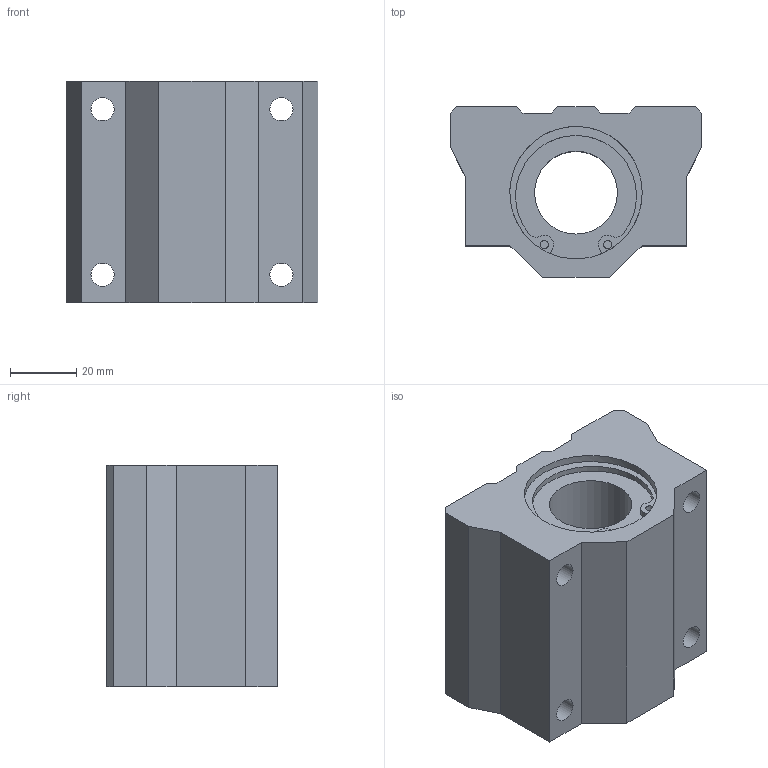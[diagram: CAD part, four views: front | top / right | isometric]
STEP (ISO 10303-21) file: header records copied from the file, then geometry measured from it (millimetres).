
FILE_DESCRIPTION(('STEP AP203'),'1');
FILE_NAME('//192.168.1.1/share/s-4 技術開発/s-4-4_CAD/s-4-4-3_見直し済み/008 修正済み/LC-A/LC-A_TOP/LC-25VAUU.step','2022-05-19T01:36:19',(' '),(' '),'Spatial InterOp 3D',' ',' ');
FILE_SCHEMA(('CONFIG_CONTROL_DESIGN'));
Length unit declared in the file: millimetre
Products named in the file (1): 1
Bounding box: 76 x 51.5 x 67 mm (x, y, z)
Volume: 169772.7 mm3; surface area: 30420.5 mm2
Topology: 1 solids, 1 shells, 65 faces, 171 edges, 114 vertices
Faces by surface type: plane 36, cylinder 29
Full cylindrical faces by diameter (mm): 2.5 x4, 7 x8, 25 x1, 40 x2
Entity records: 1956 total; most frequent: DIRECTION 338, CARTESIAN_POINT 324, ORIENTED_EDGE 300, EDGE_CURVE 150, AXIS2_PLACEMENT_3D 122, VERTEX_POINT 108, EDGE_LOOP 96, LINE 94
